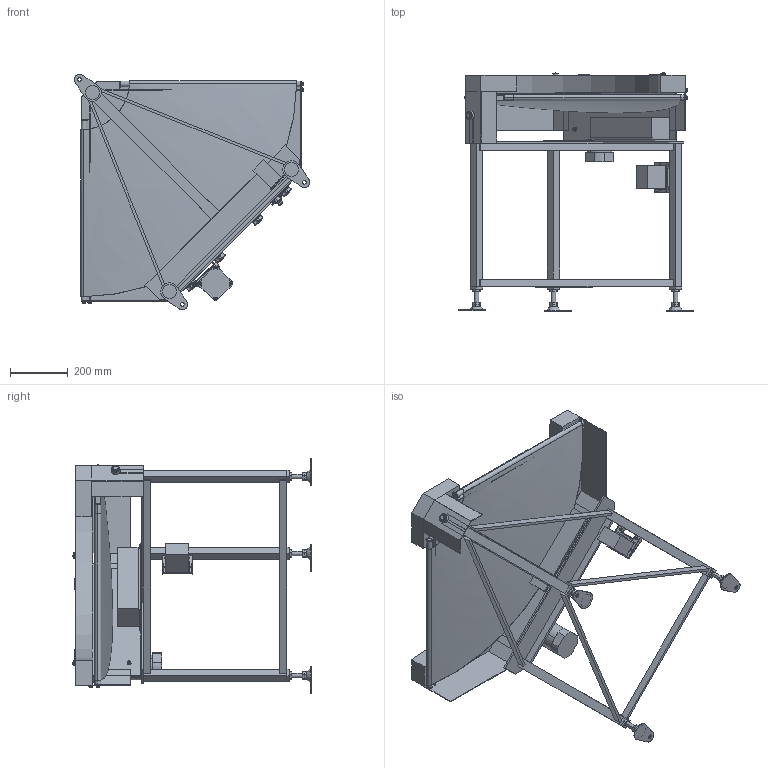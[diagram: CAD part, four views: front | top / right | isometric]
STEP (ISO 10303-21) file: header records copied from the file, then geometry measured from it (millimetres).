
FILE_DESCRIPTION( (''), '2;1');
FILE_NAME ('GBC-HS-309-500-90°-L-K-60.stp','2025-02-03T10:03:07',(''),(''),'spGate 20.6.2 (****-****-****-****)','','');
FILE_SCHEMA (('AUTOMOTIVE_DESIGN'));
Length unit declared in the file: millimetre
Products named in the file (73): NewModel; TEMP_X_T-prt0; TEMP_X_T-prt1; TEMP_X_T-prt2; TEMP_X_T-prt3; TEMP_X_T-prt4; TEMP_X_T-prt5; TEMP_X_T-prt6; TEMP_X_T-prt7; TEMP_X_T-prt8; TEMP_X_T-prt9; TEMP_X_T-prt10; TEMP_X_T-prt11; TEMP_X_T-prt12; TEMP_X_T-prt13; TEMP_X_T-prt14; TEMP_X_T-prt15; TEMP_X_T-prt16; TEMP_X_T-prt17; TEMP_X_T-prt18; TEMP_X_T-prt19; TEMP_X_T-prt20; TEMP_X_T-prt21; TEMP_X_T-prt22; TEMP_X_T-prt23; TEMP_X_T-prt24; TEMP_X_T-prt25; TEMP_X_T-prt26; TEMP_X_T-prt27; TEMP_X_T-prt28; TEMP_X_T-prt29; TEMP_X_T-prt30; TEMP_X_T-prt31; TEMP_X_T-prt32; TEMP_X_T-prt33; TEMP_X_T-prt34; TEMP_X_T-prt35; TEMP_X_T-prt36; TEMP_X_T-prt37; TEMP_X_T-prt38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
Assembly tree (72 placements, depth 2):
  NewModel
    TEMP_X_T-prt0
    TEMP_X_T-prt1
    TEMP_X_T-prt2
    TEMP_X_T-prt3
    TEMP_X_T-prt4
    TEMP_X_T-prt5
    TEMP_X_T-prt6
    TEMP_X_T-prt7
    TEMP_X_T-prt8
    TEMP_X_T-prt9
    TEMP_X_T-prt10
    TEMP_X_T-prt11
    TEMP_X_T-prt12
    TEMP_X_T-prt13
    TEMP_X_T-prt14
    TEMP_X_T-prt15
    TEMP_X_T-prt16
    TEMP_X_T-prt17
    TEMP_X_T-prt18
    TEMP_X_T-prt19
    TEMP_X_T-prt20
    TEMP_X_T-prt21
    TEMP_X_T-prt22
    TEMP_X_T-prt23
    TEMP_X_T-prt24
    TEMP_X_T-prt25
    TEMP_X_T-prt26
    TEMP_X_T-prt27
    TEMP_X_T-prt28
    TEMP_X_T-prt29
    TEMP_X_T-prt30
    TEMP_X_T-prt31
    TEMP_X_T-prt32
    TEMP_X_T-prt33
    TEMP_X_T-prt34
    TEMP_X_T-prt35
    TEMP_X_T-prt36
    TEMP_X_T-prt37
    TEMP_X_T-prt38
    TEMP_X_T-prt39
    TEMP_X_T-prt40
    TEMP_X_T-prt41
    TEMP_X_T-prt42
    TEMP_X_T-prt43
    TEMP_X_T-prt44
    TEMP_X_T-prt45
    TEMP_X_T-prt46
    TEMP_X_T-prt47
    TEMP_X_T-prt48
    TEMP_X_T-prt49
    TEMP_X_T-prt50
    TEMP_X_T-prt51
    TEMP_X_T-prt52
    TEMP_X_T-prt53
    TEMP_X_T-prt54
    TEMP_X_T-prt55
    TEMP_X_T-prt56
    TEMP_X_T-prt57
    TEMP_X_T-prt58
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Bounding box: 818.52 x 827.92 x 818.52 mm (x, y, z)
Volume: 19026553.5 mm3; surface area: 4708858.5 mm2
Topology: 72 solids, 72 shells, 1474 faces, 3364 edges, 2110 vertices
Faces by surface type: plane 836, cylinder 391, bspline 239, sphere 8
Entity records: 78363 total; most frequent: CARTESIAN_POINT 15430, DIRECTION 6931, ORIENTED_EDGE 6680, COLOUR_RGB 4886, PRESENTATION_STYLE_ASSIGNMENT 4886, STYLED_ITEM 4886, EDGE_CURVE 3340, DRAUGHTING_PRE_DEFINED_CURVE_FONT 3340
